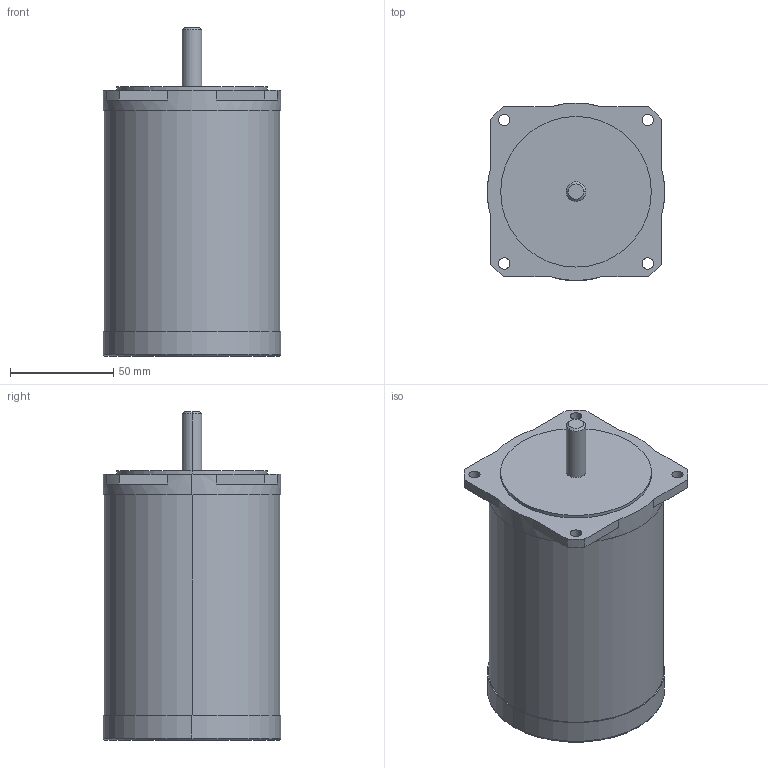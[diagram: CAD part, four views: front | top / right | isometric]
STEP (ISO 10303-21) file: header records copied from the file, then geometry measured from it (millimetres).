
FILE_DESCRIPTION (( 'STEP AP214' ), '1' );
FILE_NAME ('TS3134N319.STEP', '2016-09-09T05:53:36', ( 'hoho' ), ( '' ), 'SwSTEP 2.0', 'SolidWorks 2013', '' );
FILE_SCHEMA (( 'AUTOMOTIVE_DESIGN' ));
Length unit declared in the file: millimetre
Products named in the file (1): TS3134N319
Bounding box: 86 x 86 x 159.2 mm (x, y, z)
Volume: 748225.1 mm3; surface area: 49962.6 mm2
Topology: 1 solids, 1 shells, 44 faces, 110 edges, 72 vertices
Faces by surface type: cylinder 22, plane 18, torus 2, cone 2
Entity records: 1412 total; most frequent: DIRECTION 258, CARTESIAN_POINT 227, ORIENTED_EDGE 220, EDGE_CURVE 110, AXIS2_PLACEMENT_3D 103, VERTEX_POINT 72, CIRCLE 58, EDGE_LOOP 56
